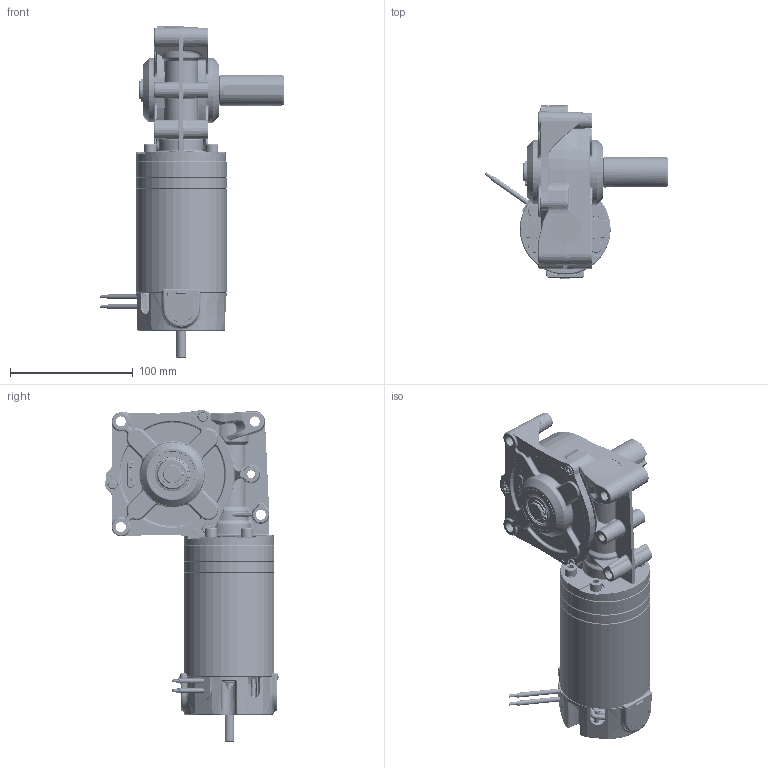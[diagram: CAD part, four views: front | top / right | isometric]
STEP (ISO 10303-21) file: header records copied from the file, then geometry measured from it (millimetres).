
FILE_DESCRIPTION (( 'STEP AP214' ), '1' );
FILE_NAME ('BRx70-40-GB12 - Shaft (render model).STEP', '2023-12-15T09:03:19', ( '' ), ( '' ), 'SwSTEP 2.0', 'SolidWorks 2023', '' );
FILE_SCHEMA (( 'AUTOMOTIVE_DESIGN' ));
Length unit declared in the file: millimetre
Products named in the file (1): BRx70-40-GB12 - Shaft (render model)
Bounding box: 149.43 x 141.46 x 270.55 mm (x, y, z)
Volume: 544038.1 mm3; surface area: 266435.6 mm2
Topology: 55 solids, 55 shells, 4421 faces, 10536 edges, 6212 vertices
Faces by surface type: cylinder 1181, plane 1042, bspline 1039, torus 559, cone 488, sphere 112
Entity records: 208705 total; most frequent: CARTESIAN_POINT 65316, ORIENTED_EDGE 20698, DIRECTION 18641, EDGE_CURVE 10349, AXIS2_PLACEMENT_3D 7562, VERTEX_POINT 6208, EDGE_LOOP 4725, UNCERTAINTY_MEASURE_WITH_UNIT 4477
